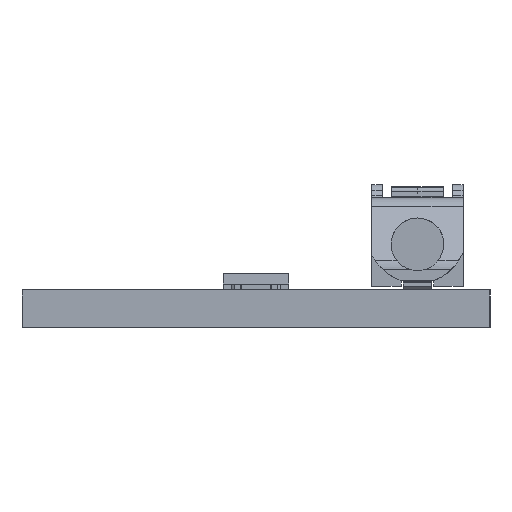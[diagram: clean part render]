
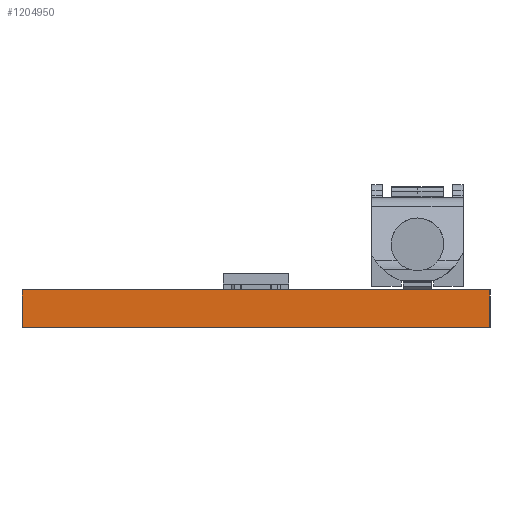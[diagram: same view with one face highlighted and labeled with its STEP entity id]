
A CAD part, left-side view. The second image highlights one B-rep face of the part: STEP entity #1204950.
In plain terms, the highlighted planar face has unit normal (-1, 0, 0).
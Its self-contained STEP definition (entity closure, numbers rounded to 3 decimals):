
#1188940=CARTESIAN_POINT('',(0.,0.,0.));
#1188950=DIRECTION('',(0.,1.,0.));
#1188960=VECTOR('',#1188950,0.039);
#1188970=LINE('',#1188940,#1188960);
#1188980=CARTESIAN_POINT('',(0.,0.,0.));
#1188990=VERTEX_POINT('',#1188980);
#1189000=CARTESIAN_POINT('',(0.,20.,0.));
#1189010=VERTEX_POINT('',#1189000);
#1189020=EDGE_CURVE('',#1188990,#1189010,#1188970,.T.);
#1194670=CARTESIAN_POINT('',(0.,0.,-1.6));
#1194680=VERTEX_POINT('',#1194670);
#1196150=CARTESIAN_POINT('',(0.,20.,-1.6));
#1196160=VERTEX_POINT('',#1196150);
#1196190=CARTESIAN_POINT('',(0.,0.,-1.6));
#1196200=DIRECTION('',(0.,1.,0.));
#1196210=VECTOR('',#1196200,0.039);
#1196220=LINE('',#1196190,#1196210);
#1196230=EDGE_CURVE('',#1194680,#1196160,#1196220,.T.);
#1200360=CARTESIAN_POINT('',(0.,0.,0.));
#1200370=DIRECTION('',(0.,0.,-1.));
#1200380=VECTOR('',#1200370,1.);
#1200390=LINE('',#1200360,#1200380);
#1200400=EDGE_CURVE('',#1188990,#1194680,#1200390,.T.);
#1204660=CARTESIAN_POINT('',(0.,20.,0.));
#1204670=DIRECTION('',(0.,0.,-1.));
#1204680=VECTOR('',#1204670,1.);
#1204690=LINE('',#1204660,#1204680);
#1204700=EDGE_CURVE('',#1189010,#1196160,#1204690,.T.);
#1204840=CARTESIAN_POINT('',(0.,0.,0.));
#1204850=DIRECTION('',(1.,0.,0.));
#1204860=DIRECTION('',(0.,-1.,0.));
#1204870=AXIS2_PLACEMENT_3D('',#1204840,#1204850,#1204860);
#1204880=PLANE('',#1204870);
#1204890=ORIENTED_EDGE('',*,*,#1189020,.T.);
#1204900=ORIENTED_EDGE('',*,*,#1200400,.F.);
#1204910=ORIENTED_EDGE('',*,*,#1196230,.F.);
#1204920=ORIENTED_EDGE('',*,*,#1204700,.T.);
#1204930=EDGE_LOOP('',(#1204920,#1204910,#1204900,#1204890));
#1204940=FACE_OUTER_BOUND('',#1204930,.T.);
#1204950=ADVANCED_FACE('',(#1204940),#1204880,.F.);
